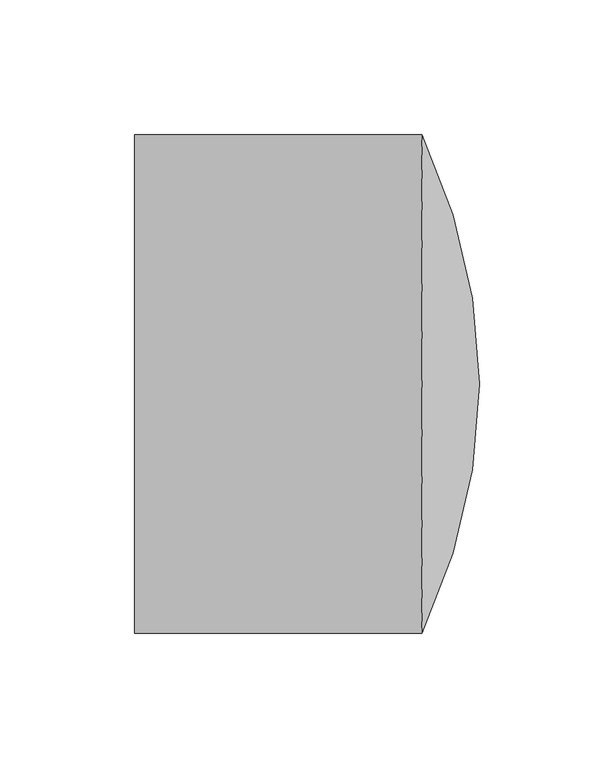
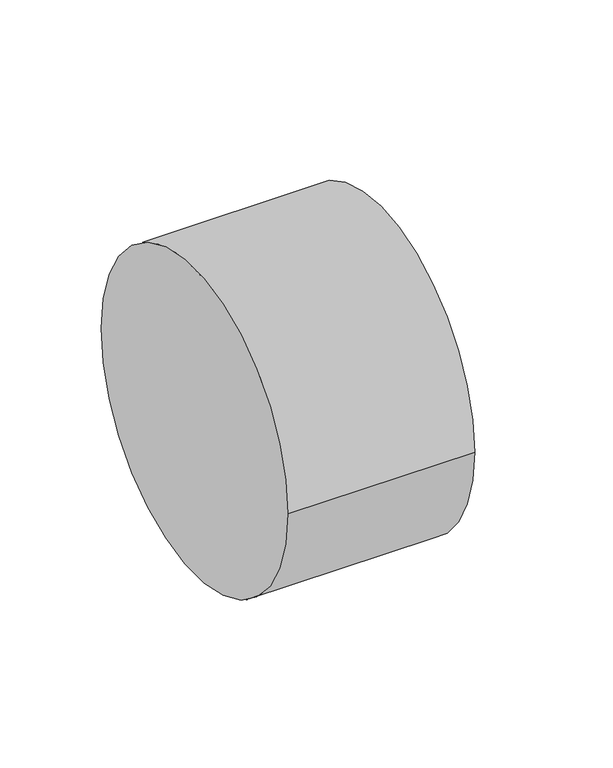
"""IFC4 building model written with IfcOpenShell, lengths in millimetres: pipe fitting geometry, 01051012 : Bouchons F."""

from ifc_helpers import new_model, si_unit, point, frame, origin, place, context, project, spatial, circle_curve, ellipse_curve, trimmed, source, transform, mapped, element, save
from ifc_brep_helpers import plane_surface, cylinder_surface, revolved_surface, advanced_brep


def pipe_fitting_f014f712(model_context):
    return source(origin(), model_context, "Body", "AdvancedBrep", [
        advanced_brep(
        [(106.6666667, 92.5, 0.0), (128.0, 0.0, 0.0), (106.6666667, -92.5, 0.0), (0.0, -92.5, 0.0), (0.0, 92.5, 0.0)],
        [
            (0, 1, circle_curve(frame((-89.0279083, -1.3432233, 0.0), z_axis=(0.0, 0.0, -1.0), x_axis=(1.0, 0.0, 0.0)), 217.032065)),
            (1, 2, circle_curve(frame((-89.0279083, 1.3432233, 0.0), z_axis=(0.0, 0.0, -1.0), x_axis=(1.0, 0.0, 0.0)), 217.032065)),
            (2, 0, circle_curve(frame((106.6666667, 0.0, 0.0), z_axis=(1.0, 0.0, 0.0), x_axis=(0.0, 1.0, 0.0)), 92.5)),
            (0, 2, circle_curve(frame((106.6666667, 0.0, 0.0), z_axis=(1.0, 0.0, 0.0), x_axis=(0.0, 1.0, 0.0)), 92.5)),
            (3, 4, circle_curve(frame((0.0, 0.0, 0.0), z_axis=(-1.0, 0.0, 0.0), x_axis=(0.0, 1.0, 0.0)), 92.5)),
            (4, 3, circle_curve(frame((0.0, 0.0, 0.0), z_axis=(-1.0, 0.0, 0.0), x_axis=(0.0, 1.0, 0.0)), 92.5)),
            (3, 2),
            (0, 4),
        ],
        [
            revolved_surface(trimmed(ellipse_curve(frame((-89.0279083, -1.3432233, 0.0), z_axis=(0.0, 0.0, 1.0), x_axis=(1.0, 0.0, 0.0)), 217.032065, 217.032065), [point((128.0, 0.0, 0.0))], [point((106.6666667, 92.5, 0.0))], True, "CARTESIAN"), (106.6666667, 0.0, 0.0), (-1.0, 0.0, 0.0)),
            plane_surface(frame((0.0, 0.0, 0.0), z_axis=(-1.0, 0.0, 0.0), x_axis=(0.0, 0.0, 1.0))),
            cylinder_surface(frame((0.0, 0.0, 0.0), z_axis=(-1.0, 0.0, 0.0), x_axis=(0.0, 1.0, 0.0)), 92.5),
        ],
        [
            (0, [[1, 2, 3]]),
            (0, [[-1, 4, -2]]),
            (1, [[5, 6]]),
            (2, [[-5, 7, -4, 8]]),
            (2, [[-6, -8, -3, -7]]),
        ],
    ),
    ])


if __name__ == "__main__":
    model = new_model("IFC4")
    model_context = context("Model", 3, world=origin())
    ifc_project = project(units=[si_unit("LENGTHUNIT", "METRE", prefix="MILLI")], contexts=[model_context])
    site = spatial("IfcSite", under=ifc_project)
    building = spatial("IfcBuilding", under=site)
    placement = place(None, origin())
    pipe_fitting_shape = pipe_fitting_f014f712(model_context)
    element("IfcPipeFitting", 1, ObjectType="01051012 : Bouchons F", at=placement, inside=building, context=model_context, shape_type="MappedRepresentation", body=[
        mapped(pipe_fitting_shape, transform((0.0, 0.0, 0.0), x_axis=(1.0, 0.0, 0.0), y_axis=(0.0, 1.0, 0.0), z_axis=(0.0, 0.0, 1.0))),
    ])
    save(model, "model.ifc")
